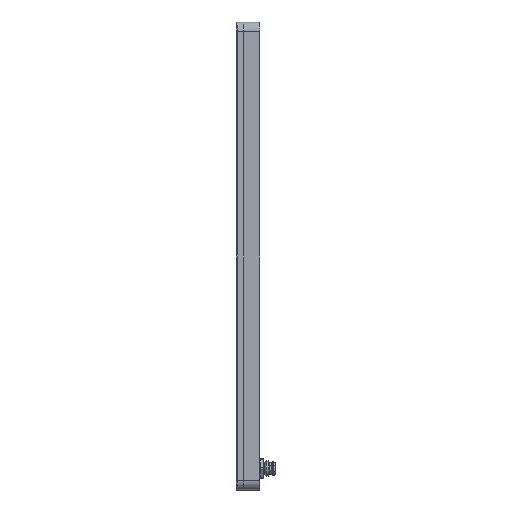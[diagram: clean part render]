
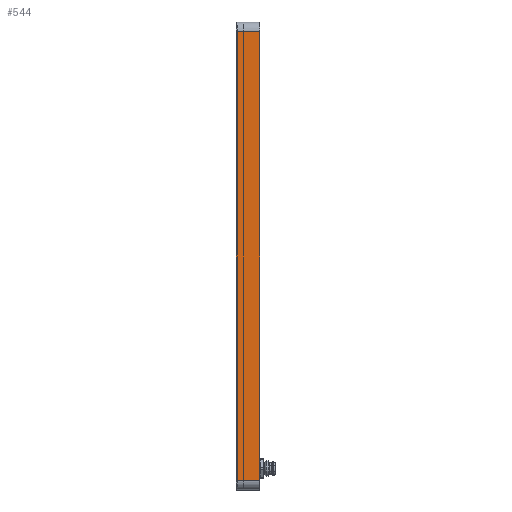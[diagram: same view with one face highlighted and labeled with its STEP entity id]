
A CAD part, left-side view. The second image highlights one B-rep face of the part: STEP entity #544.
In plain terms, the highlighted planar face has unit normal (-1, 0, 0).
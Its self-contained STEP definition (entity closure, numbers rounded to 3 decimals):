
#85 = LINE ( 'NONE', #2945, #3083 ) ;
#88 = CARTESIAN_POINT ( 'NONE',  ( -251.419, -22.591, 165. ) ) ;
#177 = VECTOR ( 'NONE', #1836, 1000. ) ;
#452 = EDGE_CURVE ( 'NONE', #3232, #3784, #3297, .T. ) ;
#544 = ADVANCED_FACE ( 'NONE', ( #2262 ), #3312, .F. ) ;
#604 = ORIENTED_EDGE ( 'NONE', *, *, #2850, .T. ) ;
#835 = CARTESIAN_POINT ( 'NONE',  ( -251.419, -10.591, -65. ) ) ;
#935 = CARTESIAN_POINT ( 'NONE',  ( -251.419, -22.591, -65. ) ) ;
#1079 = CARTESIAN_POINT ( 'NONE',  ( -251.419, -10.591, 165. ) ) ;
#1130 = LINE ( 'NONE', #3393, #2939 ) ;
#1330 = EDGE_CURVE ( 'NONE', #3033, #3784, #85, .T. ) ;
#1541 = VECTOR ( 'NONE', #1977, 1000. ) ;
#1672 = DIRECTION ( 'NONE',  ( 0., 0., 1. ) ) ;
#1836 = DIRECTION ( 'NONE',  ( 0., 0., 1. ) ) ;
#1861 = EDGE_LOOP ( 'NONE', ( #3086, #604, #3975, #3177 ) ) ;
#1977 = DIRECTION ( 'NONE',  ( 0., 1., 0. ) ) ;
#2020 = EDGE_CURVE ( 'NONE', #2154, #3232, #2531, .T. ) ;
#2154 = VERTEX_POINT ( 'NONE', #935 ) ;
#2262 = FACE_OUTER_BOUND ( 'NONE', #1861, .T. ) ;
#2266 = AXIS2_PLACEMENT_3D ( 'NONE', #3073, #3683, #4060 ) ;
#2414 = DIRECTION ( 'NONE',  ( 0., -1., 0. ) ) ;
#2531 = LINE ( 'NONE', #3777, #177 ) ;
#2850 = EDGE_CURVE ( 'NONE', #3033, #2154, #1130, .T. ) ;
#2939 = VECTOR ( 'NONE', #2414, 1000. ) ;
#2945 = CARTESIAN_POINT ( 'NONE',  ( -251.419, -10.591, 170. ) ) ;
#3033 = VERTEX_POINT ( 'NONE', #835 ) ;
#3073 = CARTESIAN_POINT ( 'NONE',  ( -251.419, -10.591, 170. ) ) ;
#3083 = VECTOR ( 'NONE', #1672, 1000. ) ;
#3086 = ORIENTED_EDGE ( 'NONE', *, *, #1330, .F. ) ;
#3177 = ORIENTED_EDGE ( 'NONE', *, *, #452, .T. ) ;
#3232 = VERTEX_POINT ( 'NONE', #88 ) ;
#3297 = LINE ( 'NONE', #3619, #1541 ) ;
#3312 = PLANE ( 'NONE',  #2266 ) ;
#3393 = CARTESIAN_POINT ( 'NONE',  ( -251.419, -10.591, -65. ) ) ;
#3619 = CARTESIAN_POINT ( 'NONE',  ( -251.419, -10.591, 165. ) ) ;
#3683 = DIRECTION ( 'NONE',  ( 1., 0., 0. ) ) ;
#3777 = CARTESIAN_POINT ( 'NONE',  ( -251.419, -22.591, 170. ) ) ;
#3784 = VERTEX_POINT ( 'NONE', #1079 ) ;
#3975 = ORIENTED_EDGE ( 'NONE', *, *, #2020, .T. ) ;
#4060 = DIRECTION ( 'NONE',  ( 0., 0., -1. ) ) ;
